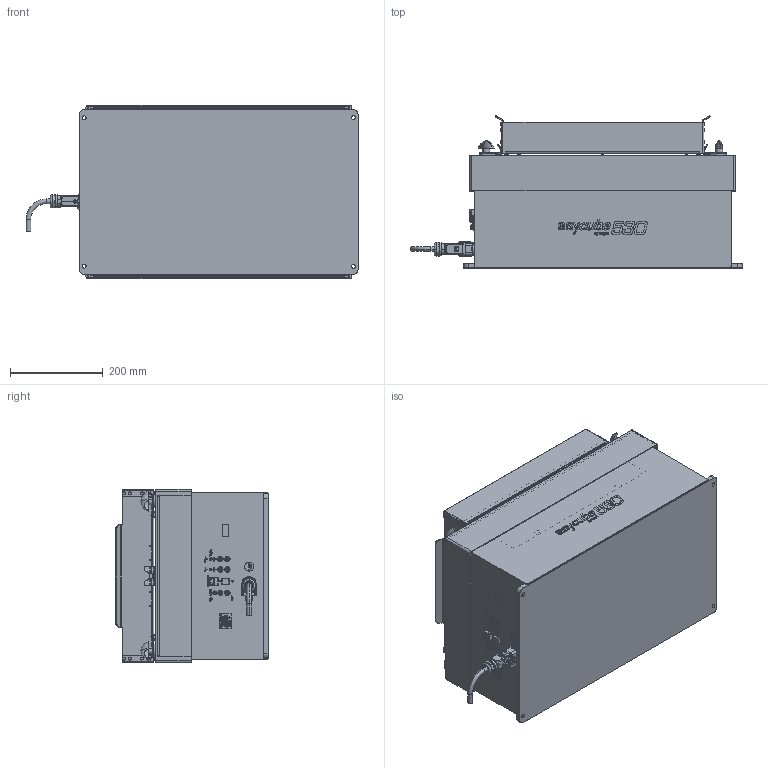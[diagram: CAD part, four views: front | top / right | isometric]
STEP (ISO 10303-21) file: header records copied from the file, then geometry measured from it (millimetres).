
FILE_DESCRIPTION (( 'STEP AP214' ), '1' );
FILE_NAME ('Asyril_ASYCUBE 530.STEP', '2019-10-17T13:26:29', ( 'Standard' ), ( '' ), 'SwSTEP 2.0', 'SolidWorks 2017', '' );
FILE_SCHEMA (( 'AUTOMOTIVE_DESIGN' ));
Length unit declared in the file: millimetre
Products named in the file (5): Asyril_HAN 3A 5P 5m POWER CABLE_000.103.271_(option); Asyril_FLAT VIBRATING PLATE (POM-C) - 530_000.101.995_(option); Asyril_PLATFORM FRAME H=68mm - 530_000.102.643_(option); Asyril_ASYCUBE 530_XXX.XXX.XXX; Asyril_ASYCUBE 530
Assembly tree (4 placements, depth 2):
  Asyril_ASYCUBE 530
    Asyril_ASYCUBE 530_XXX.XXX.XXX
    Asyril_PLATFORM FRAME H=68mm - 530_000.102.643_(option)
    Asyril_FLAT VIBRATING PLATE (POM-C) - 530_000.101.995_(option)
    Asyril_HAN 3A 5P 5m POWER CABLE_000.103.271_(option)
Bounding box: 715.2 x 328.11 x 374 mm (x, y, z)
Volume: 29225273.8 mm3; surface area: 1966483.3 mm2
Topology: 6 solids, 9 shells, 4315 faces, 13832 edges, 9926 vertices
Faces by surface type: plane 2127, cylinder 1178, bspline 661, cone 261, torus 80, sphere 8
Entity records: 251851 total; most frequent: CARTESIAN_POINT 108629, ORIENTED_EDGE 27502, DIRECTION 21037, EDGE_CURVE 13751, VERTEX_POINT 9926, LINE 7041, VECTOR 7041, AXIS2_PLACEMENT_3D 6998
